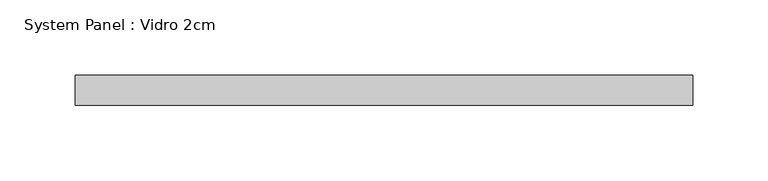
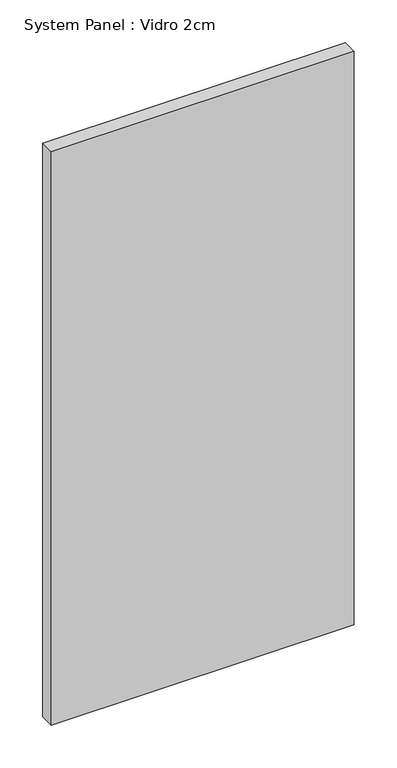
"""IFC4 building model written with IfcOpenShell, lengths in millimetres: plate geometry, System Panel : Vidro 2cm."""

from ifc_helpers import new_model, si_unit, origin, origin_with_axes, place, context, project, spatial, polyline, outline, extrude, source, transform, mapped, element, save


def system_panel_vidro_2cm_91a6d141(model_context):
    return source(origin(), model_context, "Body", "SweptSolid", [
        extrude(outline(polyline([(204.9999998, -20.0), (-204.9999998, -20.0), (-204.9999998, 0.0), (204.9999998, 0.0), (204.9999998, -20.0)])), origin_with_axes(), (0.0, 0.0, 1.0), 820.0),
    ])


if __name__ == "__main__":
    model = new_model("IFC4")
    model_context = context("Model", 3, world=origin())
    ifc_project = project(units=[si_unit("LENGTHUNIT", "METRE", prefix="MILLI")], contexts=[model_context])
    site = spatial("IfcSite", under=ifc_project)
    building = spatial("IfcBuilding", under=site)
    placement = place(None, origin())
    system_panel_vidro_2cm_shape = system_panel_vidro_2cm_91a6d141(model_context)
    element("IfcPlate", 1, ObjectType="System Panel : Vidro 2cm", at=placement, inside=building, context=model_context, shape_type="MappedRepresentation", body=[
        mapped(system_panel_vidro_2cm_shape, transform((0.0, 0.0, 0.0), x_axis=(1.0, 0.0, 0.0), y_axis=(0.0, 1.0, 0.0), z_axis=(0.0, 0.0, 1.0))),
    ])
    save(model, "model.ifc")
